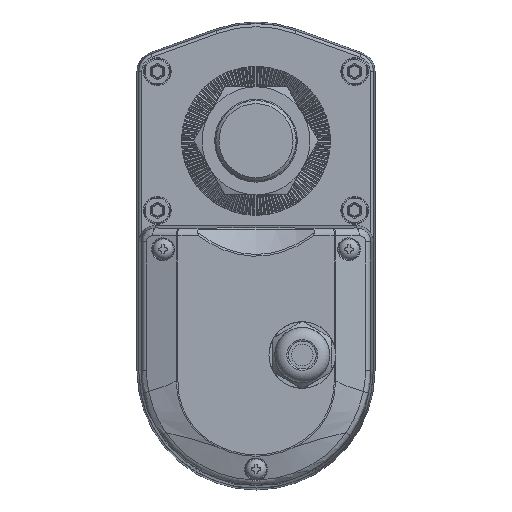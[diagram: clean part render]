
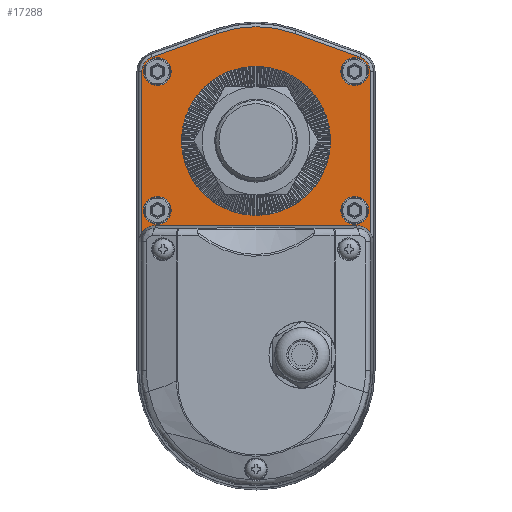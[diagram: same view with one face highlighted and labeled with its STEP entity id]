
A CAD part, top view. The second image highlights one B-rep face of the part: STEP entity #17288.
In plain terms, the highlighted planar face has unit normal (0, 0, 1).
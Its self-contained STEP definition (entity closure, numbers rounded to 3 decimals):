
#470 = DIRECTION ( 'NONE',  ( -0.94, -0.34, 0. ) ) ;
#746 = DIRECTION ( 'NONE',  ( 0., 0., -1. ) ) ;
#831 = EDGE_LOOP ( 'NONE', ( #25548 ) ) ;
#1466 = EDGE_LOOP ( 'NONE', ( #4608 ) ) ;
#1870 = CARTESIAN_POINT ( 'NONE',  ( 37.012, -29.754, 40. ) ) ;
#2747 = VERTEX_POINT ( 'NONE', #26676 ) ;
#3087 = DIRECTION ( 'NONE',  ( 0., 0., 1. ) ) ;
#3284 = DIRECTION ( 'NONE',  ( 0., -1., 0. ) ) ;
#3324 = ORIENTED_EDGE ( 'NONE', *, *, #33760, .F. ) ;
#3693 = DIRECTION ( 'NONE',  ( 0., 0., 1. ) ) ;
#3832 = ORIENTED_EDGE ( 'NONE', *, *, #26584, .T. ) ;
#4012 = LINE ( 'NONE', #22596, #32173 ) ;
#4211 = AXIS2_PLACEMENT_3D ( 'NONE', #17049, #746, #19764 ) ;
#4608 = ORIENTED_EDGE ( 'NONE', *, *, #25564, .F. ) ;
#4788 = AXIS2_PLACEMENT_3D ( 'NONE', #15983, #35131, #18750 ) ;
#5115 = CARTESIAN_POINT ( 'NONE',  ( 37.012, 22.46, 40. ) ) ;
#5261 = DIRECTION ( 'NONE',  ( 0., 0., 1. ) ) ;
#5463 = FACE_BOUND ( 'NONE', #831, .T. ) ;
#5914 = CARTESIAN_POINT ( 'NONE',  ( -33.701, 27.179, 40. ) ) ;
#6854 = DIRECTION ( 'NONE',  ( 0., 0., 1. ) ) ;
#8240 = VERTEX_POINT ( 'NONE', #1870 ) ;
#8673 = AXIS2_PLACEMENT_3D ( 'NONE', #11962, #31040, #14638 ) ;
#8993 = ORIENTED_EDGE ( 'NONE', *, *, #31301, .T. ) ;
#9197 = AXIS2_PLACEMENT_3D ( 'NONE', #19975, #3693, #22702 ) ;
#9330 = CARTESIAN_POINT ( 'NONE',  ( 31.995, 22.46, 40. ) ) ;
#9340 = CARTESIAN_POINT ( 'NONE',  ( 0., 0., 40. ) ) ;
#9390 = EDGE_CURVE ( 'NONE', #12125, #11398, #30540, .T. ) ;
#9667 = EDGE_LOOP ( 'NONE', ( #29530 ) ) ;
#9776 = VERTEX_POINT ( 'NONE', #31523 ) ;
#10113 = CIRCLE ( 'NONE', #9197, 4.5 ) ;
#10214 = CARTESIAN_POINT ( 'NONE',  ( 27.5, -22.54, 40. ) ) ;
#10569 = EDGE_CURVE ( 'NONE', #11398, #28458, #4012, .T. ) ;
#11398 = VERTEX_POINT ( 'NONE', #16310 ) ;
#11465 = VECTOR ( 'NONE', #470, 1000. ) ;
#11665 = CARTESIAN_POINT ( 'NONE',  ( 32.675, -32.8, 40. ) ) ;
#11962 = CARTESIAN_POINT ( 'NONE',  ( 32., -22.54, 40. ) ) ;
#12044 = DIRECTION ( 'NONE',  ( -1., 0., 0. ) ) ;
#12060 = DIRECTION ( 'NONE',  ( -1., 0., 0. ) ) ;
#12125 = VERTEX_POINT ( 'NONE', #5115 ) ;
#12159 = ORIENTED_EDGE ( 'NONE', *, *, #10569, .T. ) ;
#12303 = VERTEX_POINT ( 'NONE', #5914 ) ;
#12727 = ORIENTED_EDGE ( 'NONE', *, *, #30420, .F. ) ;
#12760 = CARTESIAN_POINT ( 'NONE',  ( -12.586, 34.812, 40. ) ) ;
#13026 = CARTESIAN_POINT ( 'NONE',  ( -27.5, 22.46, 40. ) ) ;
#13255 = ORIENTED_EDGE ( 'NONE', *, *, #14809, .T. ) ;
#14012 = CARTESIAN_POINT ( 'NONE',  ( -33.701, 27.179, 40. ) ) ;
#14089 = AXIS2_PLACEMENT_3D ( 'NONE', #23118, #6854, #25922 ) ;
#14163 = CIRCLE ( 'NONE', #19550, 5.3 ) ;
#14363 = DIRECTION ( 'NONE',  ( 1., 0., 0. ) ) ;
#14638 = DIRECTION ( 'NONE',  ( -1., 0., 0. ) ) ;
#14809 = EDGE_CURVE ( 'NONE', #34669, #12303, #34114, .T. ) ;
#14880 = VERTEX_POINT ( 'NONE', #27950 ) ;
#15086 = CIRCLE ( 'NONE', #16995, 5.3 ) ;
#15253 = CARTESIAN_POINT ( 'NONE',  ( 0., 0., 40. ) ) ;
#15631 = CARTESIAN_POINT ( 'NONE',  ( -24.1, 0., 40. ) ) ;
#15771 = CIRCLE ( 'NONE', #4788, 4.5 ) ;
#15983 = CARTESIAN_POINT ( 'NONE',  ( -32., 22.46, 40. ) ) ;
#16310 = CARTESIAN_POINT ( 'NONE',  ( 33.701, 27.179, 40. ) ) ;
#16337 = VERTEX_POINT ( 'NONE', #13026 ) ;
#16459 = EDGE_LOOP ( 'NONE', ( #29936 ) ) ;
#16995 = AXIS2_PLACEMENT_3D ( 'NONE', #19370, #3087, #22105 ) ;
#17049 = CARTESIAN_POINT ( 'NONE',  ( 0., 0., 40. ) ) ;
#17288 = ADVANCED_FACE ( 'NONE', ( #33629, #27249, #19905, #5463, #26386, #19054 ), #25211, .F. ) ;
#17811 = AXIS2_PLACEMENT_3D ( 'NONE', #15253, #34401, #18003 ) ;
#17919 = CARTESIAN_POINT ( 'NONE',  ( 12.586, 34.812, 40. ) ) ;
#18003 = DIRECTION ( 'NONE',  ( -1., 0., 0. ) ) ;
#18101 = CARTESIAN_POINT ( 'NONE',  ( 37.012, 22.46, 40. ) ) ;
#18351 = DIRECTION ( 'NONE',  ( 0., 1., 0. ) ) ;
#18750 = DIRECTION ( 'NONE',  ( 1., 0., 0. ) ) ;
#18921 = VERTEX_POINT ( 'NONE', #10214 ) ;
#19054 = FACE_OUTER_BOUND ( 'NONE', #25419, .T. ) ;
#19370 = CARTESIAN_POINT ( 'NONE',  ( -32.675, -32.8, 40. ) ) ;
#19537 = AXIS2_PLACEMENT_3D ( 'NONE', #9340, #28451, #12060 ) ;
#19550 = AXIS2_PLACEMENT_3D ( 'NONE', #11665, #30769, #14363 ) ;
#19764 = DIRECTION ( 'NONE',  ( -1., 0., 0. ) ) ;
#19832 = CARTESIAN_POINT ( 'NONE',  ( -37.012, -29.754, 40. ) ) ;
#19905 = FACE_BOUND ( 'NONE', #1466, .T. ) ;
#19975 = CARTESIAN_POINT ( 'NONE',  ( 32., 22.46, 40. ) ) ;
#20634 = VERTEX_POINT ( 'NONE', #19832 ) ;
#20876 = CIRCLE ( 'NONE', #19537, 37.017 ) ;
#21040 = VERTEX_POINT ( 'NONE', #22309 ) ;
#21077 = ORIENTED_EDGE ( 'NONE', *, *, #21647, .T. ) ;
#21100 = AXIS2_PLACEMENT_3D ( 'NONE', #21522, #5261, #24308 ) ;
#21119 = VECTOR ( 'NONE', #18351, 1000. ) ;
#21193 = EDGE_LOOP ( 'NONE', ( #12727 ) ) ;
#21522 = CARTESIAN_POINT ( 'NONE',  ( -32., -22.54, 40. ) ) ;
#21561 = EDGE_CURVE ( 'NONE', #18921, #18921, #22299, .T. ) ;
#21647 = EDGE_CURVE ( 'NONE', #12303, #14880, #35169, .T. ) ;
#21681 = AXIS2_PLACEMENT_3D ( 'NONE', #9330, #28438, #12044 ) ;
#22105 = DIRECTION ( 'NONE',  ( 1., 0., 0. ) ) ;
#22298 = CARTESIAN_POINT ( 'NONE',  ( -37.012, -74.495, 40. ) ) ;
#22299 = CIRCLE ( 'NONE', #8673, 4.5 ) ;
#22309 = CARTESIAN_POINT ( 'NONE',  ( -32.675, -27.5, 40. ) ) ;
#22596 = CARTESIAN_POINT ( 'NONE',  ( 12.586, 34.812, 40. ) ) ;
#22702 = DIRECTION ( 'NONE',  ( -1., 0., 0. ) ) ;
#23082 = CIRCLE ( 'NONE', #17811, 24.1 ) ;
#23118 = CARTESIAN_POINT ( 'NONE',  ( -31.995, 22.46, 40. ) ) ;
#23242 = EDGE_CURVE ( 'NONE', #25376, #25376, #23082, .T. ) ;
#23985 = CARTESIAN_POINT ( 'NONE',  ( 27.5, 22.46, 40. ) ) ;
#24308 = DIRECTION ( 'NONE',  ( 1., 0., 0. ) ) ;
#24993 = LINE ( 'NONE', #22298, #32254 ) ;
#25125 = ORIENTED_EDGE ( 'NONE', *, *, #34707, .T. ) ;
#25211 = PLANE ( 'NONE',  #4211 ) ;
#25376 = VERTEX_POINT ( 'NONE', #15631 ) ;
#25404 = DIRECTION ( 'NONE',  ( -0.94, 0.34, 0. ) ) ;
#25419 = EDGE_LOOP ( 'NONE', ( #8993, #33086, #28850, #3324, #25125, #34367, #12159, #3832, #13255, #21077 ) ) ;
#25548 = ORIENTED_EDGE ( 'NONE', *, *, #21561, .F. ) ;
#25564 = EDGE_CURVE ( 'NONE', #2747, #2747, #32091, .T. ) ;
#25922 = DIRECTION ( 'NONE',  ( -1., 0., 0. ) ) ;
#26386 = FACE_BOUND ( 'NONE', #21193, .T. ) ;
#26584 = EDGE_CURVE ( 'NONE', #28458, #34669, #20876, .T. ) ;
#26676 = CARTESIAN_POINT ( 'NONE',  ( -27.5, -22.54, 40. ) ) ;
#27133 = EDGE_CURVE ( 'NONE', #16337, #16337, #15771, .T. ) ;
#27249 = FACE_BOUND ( 'NONE', #9667, .T. ) ;
#27445 = CARTESIAN_POINT ( 'NONE',  ( -32.675, -27.5, 40. ) ) ;
#27950 = CARTESIAN_POINT ( 'NONE',  ( -37.012, 22.46, 40. ) ) ;
#28407 = LINE ( 'NONE', #27445, #33908 ) ;
#28438 = DIRECTION ( 'NONE',  ( 0., 0., 1. ) ) ;
#28451 = DIRECTION ( 'NONE',  ( 0., 0., 1. ) ) ;
#28458 = VERTEX_POINT ( 'NONE', #17919 ) ;
#28470 = LINE ( 'NONE', #18101, #21119 ) ;
#28850 = ORIENTED_EDGE ( 'NONE', *, *, #32699, .F. ) ;
#29242 = VERTEX_POINT ( 'NONE', #23985 ) ;
#29530 = ORIENTED_EDGE ( 'NONE', *, *, #27133, .F. ) ;
#29936 = ORIENTED_EDGE ( 'NONE', *, *, #23242, .F. ) ;
#30143 = DIRECTION ( 'NONE',  ( -1., 0., 0. ) ) ;
#30420 = EDGE_CURVE ( 'NONE', #29242, #29242, #10113, .T. ) ;
#30540 = CIRCLE ( 'NONE', #21681, 5.017 ) ;
#30769 = DIRECTION ( 'NONE',  ( 0., 0., 1. ) ) ;
#31040 = DIRECTION ( 'NONE',  ( 0., 0., 1. ) ) ;
#31301 = EDGE_CURVE ( 'NONE', #14880, #20634, #24993, .T. ) ;
#31523 = CARTESIAN_POINT ( 'NONE',  ( 32.675, -27.5, 40. ) ) ;
#32091 = CIRCLE ( 'NONE', #21100, 4.5 ) ;
#32173 = VECTOR ( 'NONE', #25404, 1000. ) ;
#32227 = EDGE_CURVE ( 'NONE', #21040, #20634, #15086, .T. ) ;
#32254 = VECTOR ( 'NONE', #3284, 1000. ) ;
#32699 = EDGE_CURVE ( 'NONE', #9776, #21040, #28407, .T. ) ;
#33086 = ORIENTED_EDGE ( 'NONE', *, *, #32227, .F. ) ;
#33629 = FACE_BOUND ( 'NONE', #16459, .T. ) ;
#33760 = EDGE_CURVE ( 'NONE', #8240, #9776, #14163, .T. ) ;
#33908 = VECTOR ( 'NONE', #30143, 1000. ) ;
#34114 = LINE ( 'NONE', #14012, #11465 ) ;
#34367 = ORIENTED_EDGE ( 'NONE', *, *, #9390, .T. ) ;
#34401 = DIRECTION ( 'NONE',  ( 0., 0., 1. ) ) ;
#34669 = VERTEX_POINT ( 'NONE', #12760 ) ;
#34707 = EDGE_CURVE ( 'NONE', #8240, #12125, #28470, .T. ) ;
#35131 = DIRECTION ( 'NONE',  ( 0., 0., 1. ) ) ;
#35169 = CIRCLE ( 'NONE', #14089, 5.017 ) ;
